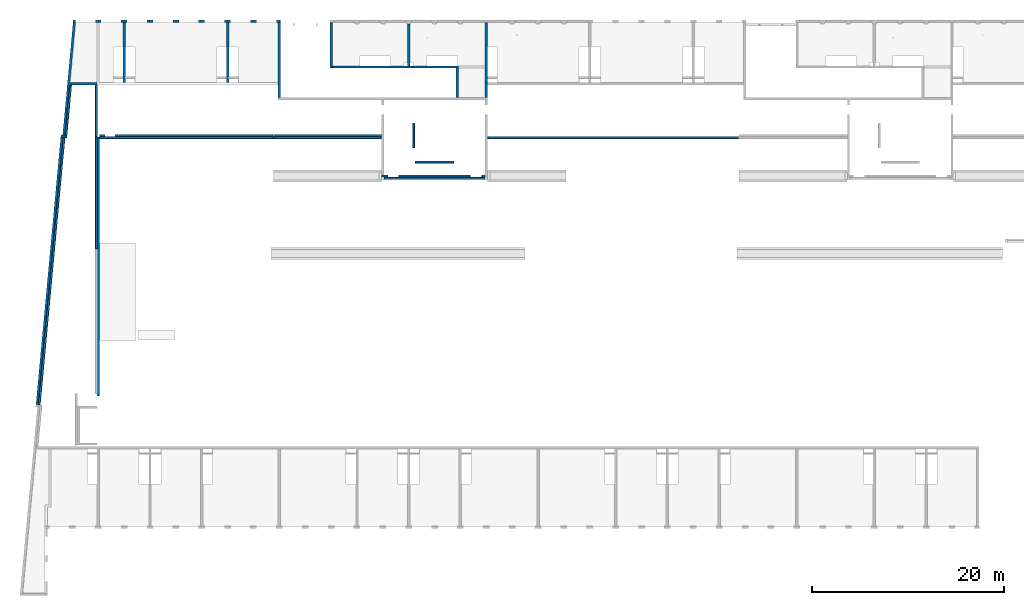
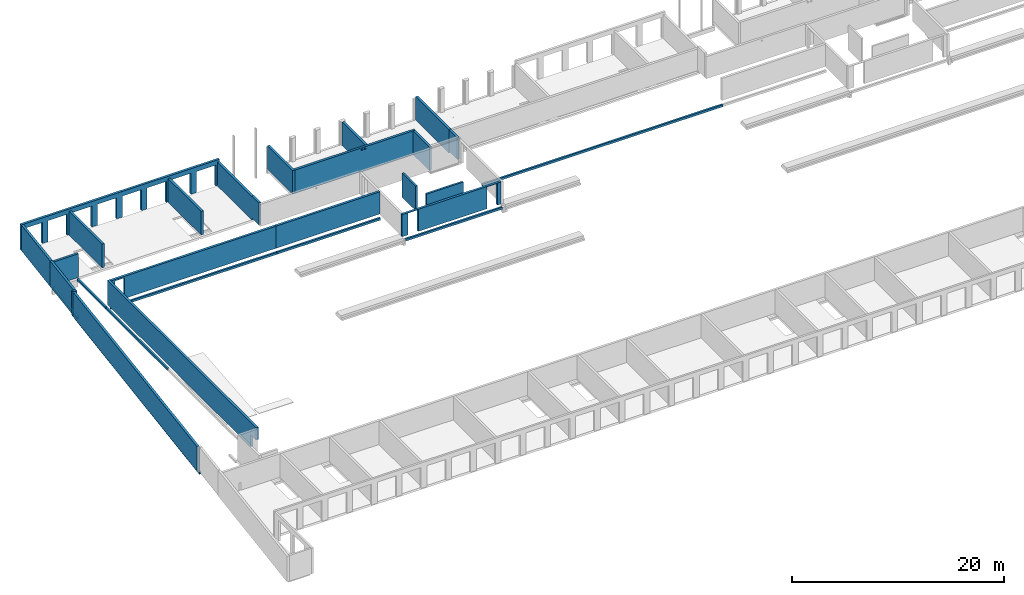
# One storey, part 10 of 18: 29 walls, 20 openings.
"""IFC2X3 building model written with IfcOpenShell, lengths in millimetres."""

from ifc_helpers import new_model, entity, si_unit, converted_unit, derived_unit, direction, frame, frame_2d, origin, origin_2d_with_axis, place, context, subcontext, project, spatial, polyline, rectangle, circle, outline, extrude, clip, bounded_halfspace, faceted_brep, material, layer, layer_set, layer_usage, type_object, element, save


model = new_model("IFC2X3")

# Units and contexts
model_context = context("Model", 3, precision=0.01, world=origin(), true_north=direction((6.12303176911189e-17, 1.0)))
body_context = subcontext(model_context, "Body", "Model", "MODEL_VIEW")
ifc_project = project(units=[si_unit("LENGTHUNIT", "METRE", prefix="MILLI"), si_unit("AREAUNIT", "SQUARE_METRE"), si_unit("VOLUMEUNIT", "CUBIC_METRE"), converted_unit("PLANEANGLEUNIT", "DEGREE", entity("IfcRatioMeasure", 0.0174532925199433), si_unit("PLANEANGLEUNIT", "RADIAN"), dimensions=[0, 0, 0, 0, 0, 0, 0]), si_unit("MASSUNIT", "GRAM", prefix="KILO"), derived_unit("MASSDENSITYUNIT", [(si_unit("MASSUNIT", "GRAM", prefix="KILO"), 1), (si_unit("LENGTHUNIT", "METRE"), -3)]), si_unit("TIMEUNIT", "SECOND"), si_unit("FREQUENCYUNIT", "HERTZ"), si_unit("THERMODYNAMICTEMPERATUREUNIT", "DEGREE_CELSIUS"), derived_unit("THERMALTRANSMITTANCEUNIT", [(si_unit("MASSUNIT", "GRAM", prefix="KILO"), 1), (si_unit("THERMODYNAMICTEMPERATUREUNIT", "KELVIN"), -1), (si_unit("TIMEUNIT", "SECOND"), -3)]), derived_unit("VOLUMETRICFLOWRATEUNIT", [(si_unit("LENGTHUNIT", "METRE"), 3), (si_unit("TIMEUNIT", "SECOND"), -1)]), si_unit("ELECTRICCURRENTUNIT", "AMPERE"), si_unit("ELECTRICVOLTAGEUNIT", "VOLT"), si_unit("POWERUNIT", "WATT"), si_unit("FORCEUNIT", "NEWTON", prefix="KILO"), si_unit("ILLUMINANCEUNIT", "LUX"), si_unit("LUMINOUSFLUXUNIT", "LUMEN"), si_unit("LUMINOUSINTENSITYUNIT", "CANDELA"), derived_unit("USERDEFINED", [(si_unit("MASSUNIT", "GRAM", prefix="KILO"), -1), (si_unit("LENGTHUNIT", "METRE"), -2), (si_unit("TIMEUNIT", "SECOND"), 3), (si_unit("LUMINOUSFLUXUNIT", "LUMEN"), 1)]), derived_unit("LINEARVELOCITYUNIT", [(si_unit("LENGTHUNIT", "METRE"), 1), (si_unit("TIMEUNIT", "SECOND"), -1)]), si_unit("PRESSUREUNIT", "PASCAL"), derived_unit("USERDEFINED", [(si_unit("LENGTHUNIT", "METRE"), -2), (si_unit("MASSUNIT", "GRAM", prefix="KILO"), 1), (si_unit("TIMEUNIT", "SECOND"), -2)])], contexts=[model_context])

# Site, building, storey
site_placement = place(None, origin())
site = spatial("IfcSite", under=ifc_project, at=site_placement, Name="Default", CompositionType="ELEMENT")
building_placement = place(site_placement, origin())
building = spatial("IfcBuilding", under=site, at=building_placement, Name="niet gebruiken", CompositionType="ELEMENT")
storey_placement = place(building_placement, frame((0.0, 0.0, 3690.0)))
storey = spatial("IfcBuildingStorey", under=building, at=storey_placement, Name="01 eerste verdieping", CompositionType="ELEMENT", Elevation=3690.00000000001)

# Walls
ifc_material_1 = material(Name="NLRS_f2_beton ihwg")
ifc_layer_1 = layer(ifc_material_1, 250.0)
ifc_layer_set_1 = layer_set([ifc_layer_1], Name="Basic Wall:NLRS_22.21_WA_beton ihwg d=250_gen")
ifc_layer_usage_1 = layer_usage(ifc_layer_set_1, "AXIS2", "NEGATIVE", 125.0)
wall_type_1 = type_object("IfcWallType", Name="Basic Wall:NLRS_22.21_WA_beton ihwg d=250_gen", PredefinedType="STANDARD", material=ifc_layer_set_1)
wall_1_placement = place(storey_placement, frame((10800.0, 46746.0, -90.0), z_axis=(0.0, 0.0, 1.0), x_axis=(0.0, 1.0, 0.0)))
element("IfcWallStandardCase", 1, at=wall_1_placement, inside=storey, type_object=wall_type_1, material=ifc_layer_usage_1, Name="Basic Wall:NLRS_22.21_WA_beton ihwg d=250_gen", ObjectType="Basic Wall:NLRS_22.21_WA_beton ihwg d=250_gen", context=body_context, shape_type="SweptSolid", body=[
    extrude(rectangle(XDim=6239.99999999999, YDim=249.999999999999, at=frame_2d((3120.0, -2.1316282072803e-14), x_axis=(-1.0, 0.0))), origin(), (0.0, 0.0, 1.0), 2720.00000000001),
])
ifc_layer_usage_2 = layer_usage(ifc_layer_set_1, "AXIS2", "NEGATIVE", 125.0)
wall_2_placement = place(storey_placement, frame((21600.0, 46746.0, -90.0), z_axis=(0.0, 0.0, 1.0), x_axis=(0.0, 1.0, 0.0)))
element("IfcWallStandardCase", 2, at=wall_2_placement, inside=storey, type_object=wall_type_1, material=ifc_layer_usage_2, Name="Basic Wall:NLRS_22.21_WA_beton ihwg d=250_gen", ObjectType="Basic Wall:NLRS_22.21_WA_beton ihwg d=250_gen", context=body_context, shape_type="SweptSolid", body=[
    extrude(rectangle(XDim=6240.00000000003, YDim=250.000000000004, at=frame_2d((3120.00000000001, 1.06581410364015e-12), x_axis=(-1.0, 0.0))), origin(), (0.0, 0.0, 1.0), 2720.00000000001),
])
ifc_layer_usage_3 = layer_usage(ifc_layer_set_1, "AXIS2", "NEGATIVE", 125.0)
wall_3_placement = place(storey_placement, frame((40500.0, 48476.0, -90.0), z_axis=(0.0, 0.0, 1.0), x_axis=(0.0, 1.0, 0.0)))
element("IfcWallStandardCase", 3, at=wall_3_placement, inside=storey, type_object=wall_type_1, material=ifc_layer_usage_3, Name="Basic Wall:NLRS_22.21_WA_beton ihwg d=250_gen", ObjectType="Basic Wall:NLRS_22.21_WA_beton ihwg d=250_gen", context=body_context, shape_type="SweptSolid", body=[
    extrude(rectangle(XDim=4370.00000000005, YDim=249.999999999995, at=frame_2d((2185.00000000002, -5.47117906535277e-13), x_axis=(-1.0, 0.0))), origin(), (0.0, 0.0, 1.0), 2720.00000000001),
])

# Wall, openings
ifc_layer_usage_4 = layer_usage(ifc_layer_set_1, "AXIS2", "NEGATIVE", 125.0)
wall_4_placement = place(storey_placement, frame((26975.0, 45176.0, -90.0), z_axis=(0.0, 0.0, 1.0), x_axis=(0.0, 1.0, 0.0)))
wall_4 = element("IfcWallStandardCase", 4, at=wall_4_placement, inside=storey, type_object=wall_type_1, material=ifc_layer_usage_4, Name="Basic Wall:NLRS_22.21_WA_beton ihwg d=250_gen", ObjectType="Basic Wall:NLRS_22.21_WA_beton ihwg d=250_gen", context=body_context, shape_type="Clipping", body=[
    clip(clip(extrude(rectangle(XDim=7810.0, YDim=250.000000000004, at=frame_2d((3905.0, 2.55795384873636e-13), x_axis=(-1.0, 0.0))), origin(), (0.0, 0.0, 1.0), 2759.99999999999), bounded_halfspace(frame((1320.0, 125.0, 2720.0), z_axis=(0.0, 0.0, -1.0), x_axis=(0.0, -1.0, 0.0)), True, frame((1320.0, 125.0, 2720.0), z_axis=(0.0, 0.0, -1.0), x_axis=(0.0, -1.0, 0.0)), polyline([(0.0, 0.0), (0.0, -6490.0), (250.0, -6490.0), (250.0, 0.0), (0.0, 0.0)]))), bounded_halfspace(frame((0.0, -125.0, 2760.0), z_axis=(0.0, 0.0, -1.0), x_axis=(0.0, -1.0, 0.0)), True, frame((0.0, -125.0, 2760.0), z_axis=(0.0, 0.0, -1.0), x_axis=(0.0, -1.0, 0.0)), polyline([(0.0, 0.0), (-230.0, 0.0), (-250.0, 0.0), (-250.0, -1320.0), (-230.0, -1320.0), (0.0, -1320.0), (0.0, 0.0)]))),
])
opening_1_placement = place(wall_4_placement, origin())
element("IfcOpeningElement", 5, at=opening_1_placement, cuts=wall_4, Name="Basic Wall:NLRS_22.21_WA_beton ihwg d=250_gen", ObjectType="Opening", context=body_context, shape_type="SweptSolid", body=[
    extrude(rectangle(XDim=39.9999999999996, YDim=6489.99999999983, at=frame_2d((0.0, 4.32009983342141e-12), x_axis=(1.0, 0.0))), frame((4565.0, 125.0, 2990.0), z_axis=(0.0, -1.0, 0.0), x_axis=(0.0, 0.0, -1.0)), (0.0, 0.0, 1.0), 250.0),
])
opening_2_placement = place(wall_4_placement, origin())
element("IfcOpeningElement", 6, at=opening_2_placement, cuts=wall_4, Name="Basic Wall:NLRS_22.21_WA_beton ihwg d=250_gen", ObjectType="Opening", context=body_context, shape_type="SweptSolid", body=[
    extrude(rectangle(XDim=209.999999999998, YDim=1320.00000000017, at=frame_2d((-2.77111666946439e-13, 0.0), x_axis=(1.0, 0.0))), frame((660.0, 125.0, 105.0), z_axis=(0.0, -1.0, 0.0), x_axis=(0.0, 0.0, 1.0)), (0.0, 0.0, 1.0), 250.0),
])

# Wall
ifc_layer_usage_5 = layer_usage(ifc_layer_set_1, "AXIS2", "NEGATIVE", 125.0)
wall_5_placement = place(storey_placement, frame((32425.0, 48226.0, -90.0), z_axis=(0.0, 0.0, 1.0), x_axis=(0.0, 1.0, 0.0)))
element("IfcWallStandardCase", 7, at=wall_5_placement, inside=storey, type_object=wall_type_1, material=ifc_layer_usage_5, Name="Basic Wall:NLRS_22.21_WA_beton ihwg d=250_gen", ObjectType="Basic Wall:NLRS_22.21_WA_beton ihwg d=250_gen", context=body_context, shape_type="SweptSolid", body=[
    extrude(rectangle(XDim=4780.0, YDim=250.000000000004, at=frame_2d((2390.0, 1.96820337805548e-12), x_axis=(-1.0, 0.0))), origin(), (0.0, 0.0, 1.0), 2720.00000000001),
])

# Wall, openings
ifc_layer_usage_6 = layer_usage(ifc_layer_set_1, "AXIS2", "NEGATIVE", 125.0)
wall_6_placement = place(storey_placement, frame((45675.0, 48351.0, -90.0), z_axis=(0.0, 0.0, 1.0), x_axis=(-1.0, 0.0, 0.0)))
wall_6 = element("IfcWallStandardCase", 8, at=wall_6_placement, inside=storey, type_object=wall_type_1, material=ifc_layer_usage_6, Name="Basic Wall:NLRS_22.21_WA_beton ihwg d=250_gen", ObjectType="Basic Wall:NLRS_22.21_WA_beton ihwg d=250_gen", context=body_context, shape_type="SweptSolid", body=[
    extrude(rectangle(XDim=13125.0, YDim=249.999999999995, at=frame_2d((6562.5, -1.10134124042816e-12), x_axis=(-1.0, 0.0))), origin(), (0.0, 0.0, 1.0), 2720.00000000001),
])
opening_3_placement = place(wall_6_placement, origin())
element("IfcOpeningElement", 9, at=opening_3_placement, cuts=wall_6, Name="Basic Wall:NLRS_22.21_WA_beton ihwg d=250_gen", ObjectType="Recess", context=body_context, shape_type="SweptSolid", body=[
    extrude(rectangle(XDim=890.0, YDim=119.999999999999, at=origin_2d_with_axis()), frame((11595.0, -125.0, 445.0), z_axis=(0.0, 1.0, 0.0), x_axis=(0.0, 0.0, -1.0)), (0.0, 0.0, 1.0), 40.0000000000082),
])
opening_4_placement = place(wall_6_placement, origin())
element("IfcOpeningElement", 10, at=opening_4_placement, cuts=wall_6, Name="Basic Wall:NLRS_22.21_WA_beton ihwg d=250_gen", ObjectType="Recess", context=body_context, shape_type="SweptSolid", body=[
    extrude(rectangle(XDim=890.0, YDim=119.999999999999, at=frame_2d((-5.40012479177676e-13, 0.0), x_axis=(1.0, 0.0))), frame((11035.0, -125.0, 445.0), z_axis=(0.0, 1.0, 0.0), x_axis=(0.0, 0.0, -1.0)), (0.0, 0.0, 1.0), 40.0000000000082),
])
opening_5_placement = place(wall_6_placement, origin())
element("IfcOpeningElement", 11, at=opening_5_placement, cuts=wall_6, Name="Basic Wall:NLRS_22.21_WA_beton ihwg d=250_gen", ObjectType="Recess", context=body_context, shape_type="SweptSolid", body=[
    extrude(rectangle(XDim=1390.0, YDim=200.000000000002, at=origin_2d_with_axis()), frame((12675.0, -125.0, 695.0), z_axis=(0.0, 1.0, 0.0), x_axis=(0.0, 0.0, -1.0)), (0.0, 0.0, 1.0), 40.0000000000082),
])
opening_6_placement = place(wall_6_placement, origin())
element("IfcOpeningElement", 12, at=opening_6_placement, cuts=wall_6, Name="Basic Wall:NLRS_22.21_WA_beton ihwg d=250_gen", ObjectType="Opening", context=body_context, shape_type="SweptSolid", body=[
    extrude(circle(Radius=100.0, at=origin_2d_with_axis()), frame((5470.0, -125.0, 2490.0), z_axis=(0.0, 1.0, 0.0), x_axis=(-1.0, 0.0, 0.0)), (0.0, 0.0, 1.0), 250.000000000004),
])
opening_7_placement = place(wall_6_placement, origin())
element("IfcOpeningElement", 13, at=opening_7_placement, cuts=wall_6, Name="Basic Wall:NLRS_22.21_WA_beton ihwg d=250_gen", ObjectType="Opening", context=body_context, shape_type="SweptSolid", body=[
    extrude(circle(Radius=100.0, at=origin_2d_with_axis()), frame((5820.0, -125.0, 2490.0), z_axis=(0.0, 1.0, 0.0), x_axis=(-1.0, 0.0, 0.0)), (0.0, 0.0, 1.0), 250.000000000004),
])

# Wall
ifc_layer_usage_7 = layer_usage(ifc_layer_set_1, "AXIS2", "NEGATIVE", 125.0)
wall_7_placement = place(storey_placement, frame((45550.0, 45156.0, -90.0), z_axis=(0.0, 0.0, 1.0), x_axis=(0.0, 1.0, 0.0)))
element("IfcWallStandardCase", 14, at=wall_7_placement, inside=storey, type_object=wall_type_1, material=ifc_layer_usage_7, Name="Basic Wall:NLRS_22.21_WA_beton ihwg d=250_gen", ObjectType="Basic Wall:NLRS_22.21_WA_beton ihwg d=250_gen", context=body_context, shape_type="SweptSolid", body=[
    extrude(rectangle(XDim=3069.99999999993, YDim=249.999999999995, at=frame_2d((1534.99999999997, 2.65742983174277e-12), x_axis=(-1.0, 0.0))), origin(), (0.0, 0.0, 1.0), 2720.0),
])

# Wall, openings
ifc_layer_usage_8 = layer_usage(ifc_layer_set_1, "AXIS2", "NEGATIVE", 125.0)
wall_8_placement = place(storey_placement, frame((48475.0, 36981.0, 30.0), z_axis=(0.0, 0.0, 1.0), x_axis=(-1.0, 0.0, 0.0)))
wall_8 = element("IfcWallStandardCase", 15, at=wall_8_placement, inside=storey, type_object=wall_type_1, material=ifc_layer_usage_8, Name="Basic Wall:NLRS_22.21_WA_beton ihwg d=250_gen", ObjectType="Basic Wall:NLRS_22.21_WA_beton ihwg d=250_gen", context=body_context, shape_type="Clipping", body=[
    clip(extrude(rectangle(XDim=10800.0, YDim=250.000000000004, at=frame_2d((5400.0, -5.47117906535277e-13), x_axis=(-1.0, 0.0))), origin(), (0.0, 0.0, 1.0), 2550.0), bounded_halfspace(frame((0.0, -125.0, 2550.0), z_axis=(0.0, 0.0, -1.0), x_axis=(-1.0, 0.0, 0.0)), True, frame((0.0, -125.0, 2550.0), z_axis=(0.0, 0.0, -1.0), x_axis=(-1.0, 0.0, 0.0)), polyline([(0.0, 0.0), (0.0, 250.0), (-10800.0, 250.0), (-10800.0, 0.0), (-10550.0, 0.0), (-10250.0, 0.0), (-7175.00021676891, 0.0), (-7145.00021676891, 0.0), (-3405.00021676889, 0.0), (-3375.00021676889, 0.0), (0.0, 0.0)]))),
])
opening_8_placement = place(wall_8_placement, origin())
element("IfcOpeningElement", 16, at=opening_8_placement, cuts=wall_8, Name="Basic Wall:NLRS_22.21_WA_beton ihwg d=250_gen", ObjectType="Opening", context=body_context, shape_type="SweptSolid", body=[
    extrude(rectangle(XDim=2495.0, YDim=1130.0, at=frame_2d((-3.41060513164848e-13, 0.0), x_axis=(1.0, 0.0))), frame((965.0, -1649.0, 1247.5), z_axis=(0.0, 1.0, 0.0), x_axis=(0.0, 0.0, 1.0)), (0.0, 0.0, 1.0), 3048.0),
])
opening_9_placement = place(wall_8_placement, origin())
element("IfcOpeningElement", 17, at=opening_9_placement, cuts=wall_8, Name="Basic Wall:NLRS_22.21_WA_beton ihwg d=250_gen", ObjectType="Opening", context=body_context, shape_type="SweptSolid", body=[
    extrude(rectangle(XDim=2495.0, YDim=1130.0, at=frame_2d((-5.6843418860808e-13, 2.1600499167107e-12), x_axis=(1.0, 0.0))), frame((9584.98186661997, -1649.0, 1247.5), z_axis=(0.0, 1.0, 0.0), x_axis=(0.0, 0.0, 1.0)), (0.0, 0.0, 1.0), 3048.0),
])

# Wall
ifc_layer_usage_9 = layer_usage(ifc_layer_set_1, "AXIS2", "NEGATIVE", 125.0)
wall_9_placement = place(storey_placement, frame((37675.0, 41186.0, 120.0), z_axis=(0.0, 0.0, 1.0), x_axis=(-1.0, 0.0, 0.0)))
element("IfcWallStandardCase", 18, at=wall_9_placement, inside=storey, type_object=wall_type_1, material=ifc_layer_usage_9, Name="Basic Wall:NLRS_22.21_WA_beton ihwg d=250_gen", ObjectType="Basic Wall:NLRS_22.21_WA_beton ihwg d=250_gen", context=body_context, shape_type="SweptSolid", body=[
    extrude(rectangle(XDim=11304.9999999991, YDim=249.999999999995, at=frame_2d((5652.49999999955, -1.4210854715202e-12), x_axis=(-1.0, 0.0))), origin(), (0.0, 0.0, 1.0), 2550.0),
])

# Wall, opening
ifc_layer_usage_10 = layer_usage(ifc_layer_set_1, "AXIS2", "NEGATIVE", 125.0)
wall_10_placement = place(storey_placement, frame((26350.0, 41186.0, 120.0), z_axis=(0.0, 0.0, 1.0), x_axis=(-1.0, 0.0, 0.0)))
wall_10 = element("IfcWallStandardCase", 19, at=wall_10_placement, inside=storey, type_object=wall_type_1, material=ifc_layer_usage_10, Name="Basic Wall:NLRS_22.21_WA_beton ihwg d=250_gen", ObjectType="Basic Wall:NLRS_22.21_WA_beton ihwg d=250_gen", context=body_context, shape_type="SweptSolid", body=[
    extrude(rectangle(XDim=18124.9999999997, YDim=249.999999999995, at=frame_2d((9062.49999999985, -1.30739863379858e-12), x_axis=(-1.0, 0.0))), origin(), (0.0, 0.0, 1.0), 2550.0),
])
opening_10_placement = place(wall_10_placement, origin())
element("IfcOpeningElement", 20, at=opening_10_placement, cuts=wall_10, Name="Basic Wall:NLRS_22.21_WA_beton ihwg d=250_gen", ObjectType="Opening", context=body_context, shape_type="SweptSolid", body=[
    extrude(rectangle(XDim=2380.0, YDim=1025.0, at=frame_2d((-1.08002495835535e-12, 5.6843418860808e-13), x_axis=(0.0, 1.0))), frame((17012.5, -1399.0, 1190.0), z_axis=(0.0, 1.0, 0.0), x_axis=(-1.0, 0.0, 0.0)), (0.0, 0.0, 1.0), 3048.0),
])

# Walls
ifc_layer_usage_11 = layer_usage(ifc_layer_set_1, "AXIS2", "NEGATIVE", 125.0)
wall_11_placement = place(storey_placement, frame((48600.0, 46746.0, -90.0), z_axis=(0.0, 0.0, 1.0), x_axis=(0.0, 1.0, 0.0)))
element("IfcWallStandardCase", 21, at=wall_11_placement, inside=storey, type_object=wall_type_1, material=ifc_layer_usage_11, Name="Basic Wall:NLRS_22.21_WA_beton ihwg d=250_gen", ObjectType="Basic Wall:NLRS_22.21_WA_beton ihwg d=250_gen", context=body_context, shape_type="Clipping", body=[
    clip(extrude(rectangle(XDim=6259.99999999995, YDim=249.999999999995, at=frame_2d((3129.99999999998, 1.08713038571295e-12), x_axis=(-1.0, 0.0))), origin(), (0.0, 0.0, 1.0), 2719.99999999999), bounded_halfspace(frame((3680.0, -125.0, 2720.0), z_axis=(0.0, 0.0, -1.0), x_axis=(-1.0, 0.0, 0.0)), True, frame((3680.0, -125.0, 2720.0), z_axis=(0.0, 0.0, -1.0), x_axis=(-1.0, 0.0, 0.0)), polyline([(0.0, 0.0), (3680.0, 0.0), (3680.0, 250.0), (-2580.0, 250.0), (-2580.0, 230.0), (-2580.0, 125.0), (-2580.0, 20.0), (-2580.0, 0.0), (0.0, 0.0)]))),
])
ifc_layer_usage_12 = layer_usage(ifc_layer_set_1, "AXIS2", "NEGATIVE", 125.0)
wall_12_placement = place(storey_placement, frame((48600.0, 45156.0, 120.0), z_axis=(0.0, 0.0, 1.0), x_axis=(0.0, 1.0, 0.0)))
element("IfcWallStandardCase", 22, at=wall_12_placement, inside=storey, type_object=wall_type_1, material=ifc_layer_usage_12, Name="Basic Wall:NLRS_22.21_WA_beton ihwg d=250_gen", ObjectType="Basic Wall:NLRS_22.21_WA_beton ihwg d=250_gen", context=body_context, shape_type="Clipping", body=[
    clip(clip(extrude(rectangle(XDim=1590.00000000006, YDim=249.999999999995, at=frame_2d((795.000000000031, 1.37845290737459e-12), x_axis=(-1.0, 0.0))), origin(), (0.0, 0.0, 1.0), 2509.99999999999), bounded_halfspace(frame((1340.0, -125.0, 2510.0), z_axis=(0.0, 0.0, -1.0), x_axis=(-1.0, 0.0, 0.0)), True, frame((1340.0, -125.0, 2510.0), z_axis=(0.0, 0.0, -1.0), x_axis=(-1.0, 0.0, 0.0)), polyline([(0.0, 0.0), (1340.0, 0.0), (1340.0, 230.0), (1340.0, 250.0), (-250.0, 250.0), (-250.0, 0.0), (0.0, 0.0)]))), bounded_halfspace(frame((1590.0, -125.0, 0.0), z_axis=(0.0, 0.0, 1.0), x_axis=(0.0, -1.0, 0.0)), True, frame((1590.0, -125.0, 0.0), z_axis=(0.0, 0.0, 1.0), x_axis=(0.0, -1.0, 0.0)), polyline([(0.0, 0.0), (-250.0, 0.0), (-250.0, -1590.0), (0.0, -1590.0), (0.0, -690.0), (0.0, 0.0)]))),
])

# Wall, opening
ifc_layer_usage_13 = layer_usage(ifc_layer_set_1, "AXIS2", "NEGATIVE", 125.0)
wall_13_placement = place(storey_placement, frame((7975.0, 46621.0, -90.0), z_axis=(0.0, 0.0, 1.0), x_axis=(-1.0, 0.0, 0.0)))
wall_13 = element("IfcWallStandardCase", 23, at=wall_13_placement, inside=storey, type_object=wall_type_1, material=ifc_layer_usage_13, Name="Basic Wall:NLRS_22.21_WA_beton ihwg d=250_gen", ObjectType="Basic Wall:NLRS_22.21_WA_beton ihwg d=250_gen", context=body_context, shape_type="SweptSolid", body=[
    extrude(rectangle(XDim=2829.65263965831, YDim=249.999999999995, at=frame_2d((1414.82631982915, -1.4281908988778e-12), x_axis=(-1.0, 0.0))), origin(), (0.0, 0.0, 1.0), 2719.99999999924),
])
opening_11_placement = place(wall_13_placement, frame((3088.92231782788, 225.0, -1100.0)))
element("IfcOpeningElement", 24, at=opening_11_placement, cuts=wall_13, Name="Basic Wall:NLRS_22.21_WA_beton ihwg d=250_gen", ObjectType="Opening", context=body_context, shape_type="Brep", body=[
    faceted_brep([(-282.44387359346, -350.0, 4300.0), (0.0, -350.0, 4300.0), (0.0, 0.0, 4300.0), (-250.0, 0.0, 4300.0), (-282.44387359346, -350.0, 0.0), (-250.0, 0.0, 0.0), (0.0, 0.0, 0.0), (0.0, -350.0, 0.0)], [[[0, 1, 2, 3]], [[4, 5, 6, 7]], [[1, 0, 4, 7]], [[2, 1, 7, 6]], [[3, 2, 6, 5]], [[0, 3, 5, 4]]]),
])

# Wall, openings
ifc_material_2 = material(Name="NLRS_f2_beton prefab")
ifc_layer_2 = layer(ifc_material_2, 250.0)
ifc_layer_set_2 = layer_set([ifc_layer_2], Name="Basic Wall:NLRS_21.21_WA_beton prefab d=250_gen")
ifc_layer_usage_14 = layer_usage(ifc_layer_set_2, "AXIS2", "NEGATIVE", 125.0)
wall_type_2 = type_object("IfcWallType", Name="Basic Wall:NLRS_21.21_WA_beton prefab d=250_gen", PredefinedType="STANDARD", material=ifc_layer_set_2)
wall_14_placement = place(storey_placement, frame((5489.22191752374, 53131.0, -70.0)))
wall_14 = element("IfcWallStandardCase", 25, at=wall_14_placement, inside=storey, type_object=wall_type_2, material=ifc_layer_usage_14, Name="Basic Wall:NLRS_21.21_WA_beton prefab d=250_gen", ObjectType="Basic Wall:NLRS_21.21_WA_beton prefab d=250_gen", context=body_context, shape_type="SweptSolid", body=[
    extrude(rectangle(XDim=21610.7780824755, YDim=249.999999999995, at=frame_2d((10805.3890412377, 3.97903932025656e-13), x_axis=(-1.0, 0.0))), origin(), (0.0, 0.0, 1.0), 2950.00000000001),
])
opening_12_placement = place(wall_14_placement, origin())
element("IfcOpeningElement", 26, at=opening_12_placement, cuts=wall_14, Name="Basic Wall:NLRS_21.21_WA_beton prefab d=250_gen", ObjectType="Opening", context=body_context, shape_type="SweptSolid", body=[
    extrude(rectangle(XDim=2440.0, YDim=2080.0, at=origin_2d_with_axis()), frame((1260.77808247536, -1649.0, 1200.0), z_axis=(0.0, 1.0, 0.0), x_axis=(0.0, 0.0, 1.0)), (0.0, 0.0, 1.0), 3048.0),
])
opening_13_placement = place(wall_14_placement, origin())
element("IfcOpeningElement", 27, at=opening_13_placement, cuts=wall_14, Name="Basic Wall:NLRS_21.21_WA_beton prefab d=250_gen", ObjectType="Opening", context=body_context, shape_type="SweptSolid", body=[
    extrude(rectangle(XDim=2440.0, YDim=2080.0, at=frame_2d((0.0, -2.1600499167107e-12), x_axis=(1.0, 0.0))), frame((14760.7780824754, -1649.0, 1200.0), z_axis=(0.0, 1.0, 0.0), x_axis=(0.0, 0.0, 1.0)), (0.0, 0.0, 1.0), 3048.0),
])
opening_14_placement = place(wall_14_placement, origin())
element("IfcOpeningElement", 28, at=opening_14_placement, cuts=wall_14, Name="Basic Wall:NLRS_21.21_WA_beton prefab d=250_gen", ObjectType="Opening", context=body_context, shape_type="SweptSolid", body=[
    extrude(rectangle(XDim=2440.0, YDim=2080.0, at=origin_2d_with_axis()), frame((12060.7780824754, -1649.0, 1200.0), z_axis=(0.0, 1.0, 0.0), x_axis=(0.0, 0.0, 1.0)), (0.0, 0.0, 1.0), 3048.0),
])
opening_15_placement = place(wall_14_placement, origin())
element("IfcOpeningElement", 29, at=opening_15_placement, cuts=wall_14, Name="Basic Wall:NLRS_21.21_WA_beton prefab d=250_gen", ObjectType="Opening", context=body_context, shape_type="SweptSolid", body=[
    extrude(rectangle(XDim=2440.0, YDim=2080.0, at=origin_2d_with_axis()), frame((9360.77808247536, -1649.0, 1200.0), z_axis=(0.0, 1.0, 0.0), x_axis=(0.0, 0.0, 1.0)), (0.0, 0.0, 1.0), 3048.0),
])
opening_16_placement = place(wall_14_placement, origin())
element("IfcOpeningElement", 30, at=opening_16_placement, cuts=wall_14, Name="Basic Wall:NLRS_21.21_WA_beton prefab d=250_gen", ObjectType="Opening", context=body_context, shape_type="SweptSolid", body=[
    extrude(rectangle(XDim=2440.0, YDim=2080.0, at=origin_2d_with_axis()), frame((6660.77808247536, -1649.0, 1200.0), z_axis=(0.0, 1.0, 0.0), x_axis=(0.0, 0.0, 1.0)), (0.0, 0.0, 1.0), 3048.0),
])
opening_17_placement = place(wall_14_placement, origin())
element("IfcOpeningElement", 31, at=opening_17_placement, cuts=wall_14, Name="Basic Wall:NLRS_21.21_WA_beton prefab d=250_gen", ObjectType="Opening", context=body_context, shape_type="SweptSolid", body=[
    extrude(rectangle(XDim=2440.0, YDim=2080.0, at=origin_2d_with_axis()), frame((3960.77808247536, -1649.0, 1200.0), z_axis=(0.0, 1.0, 0.0), x_axis=(0.0, 0.0, 1.0)), (0.0, 0.0, 1.0), 3048.0),
])
opening_18_placement = place(wall_14_placement, origin())
element("IfcOpeningElement", 32, at=opening_18_placement, cuts=wall_14, Name="Basic Wall:NLRS_21.21_WA_beton prefab d=250_gen", ObjectType="Opening", context=body_context, shape_type="SweptSolid", body=[
    extrude(rectangle(XDim=2440.0, YDim=2080.0, at=frame_2d((0.0, -2.1600499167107e-12), x_axis=(1.0, 0.0))), frame((17460.7780824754, -1649.0, 1200.0), z_axis=(0.0, 1.0, 0.0), x_axis=(0.0, 0.0, 1.0)), (0.0, 0.0, 1.0), 3048.0),
])
opening_19_placement = place(wall_14_placement, origin())
element("IfcOpeningElement", 33, at=opening_19_placement, cuts=wall_14, Name="Basic Wall:NLRS_21.21_WA_beton prefab d=250_gen", ObjectType="Opening", context=body_context, shape_type="SweptSolid", body=[
    extrude(rectangle(XDim=2440.0, YDim=2080.0, at=frame_2d((0.0, -2.1600499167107e-12), x_axis=(1.0, 0.0))), frame((20160.7780824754, -1649.0, 1200.0), z_axis=(0.0, 1.0, 0.0), x_axis=(0.0, 0.0, 1.0)), (0.0, 0.0, 1.0), 3048.0),
])

# Walls
ifc_layer_usage_15 = layer_usage(ifc_layer_set_2, "AXIS2", "NEGATIVE", 125.0)
wall_15_placement = place(storey_placement, frame((4311.35704345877, 41020.3198839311, 50.0), z_axis=(0.0, 0.0, 1.0), x_axis=(-0.0922987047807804, -0.995731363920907, 0.0)))
element("IfcWallStandardCase", 34, at=wall_15_placement, inside=storey, type_object=wall_type_2, material=ifc_layer_usage_15, Name="Basic Wall:NLRS_21.21_WA_beton prefab d=250_gen", ObjectType="Basic Wall:NLRS_21.21_WA_beton prefab d=250_gen", context=body_context, shape_type="SweptSolid", body=[
    extrude(rectangle(XDim=28029.9603140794, YDim=250.000000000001, at=frame_2d((14014.9801570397, -2.62900812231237e-13), x_axis=(-1.0, 0.0))), origin(), (0.0, 0.0, 1.0), 2829.99999999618),
])
ifc_layer_usage_16 = layer_usage(ifc_layer_set_2, "AXIS2", "NEGATIVE", 125.0)
wall_16_placement = place(storey_placement, frame((4999.76909310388, 46496.4629439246, -70.0), z_axis=(0.0, 0.0, 1.0), x_axis=(-0.0922993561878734, -0.995731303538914, 0.0)))
element("IfcWallStandardCase", 35, at=wall_16_placement, inside=storey, type_object=wall_type_2, material=ifc_layer_usage_16, Name="Basic Wall:NLRS_21.21_WA_beton prefab d=250_gen", ObjectType="Basic Wall:NLRS_21.21_WA_beton prefab d=250_gen", context=body_context, shape_type="SweptSolid", body=[
    extrude(rectangle(XDim=5266.28052932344, YDim=250.0, at=frame_2d((2633.14026466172, -1.20792265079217e-13), x_axis=(-1.0, 0.0))), origin(), (0.0, 0.0, 1.0), 2950.00000000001),
])
ifc_layer_usage_17 = layer_usage(ifc_layer_set_2, "AXIS2", "NEGATIVE", 125.0)
wall_17_placement = place(storey_placement, frame((5601.31701080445, 52986.0, -70.0), z_axis=(0.0, 0.0, 1.0), x_axis=(-0.0922993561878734, -0.995731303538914, 0.0)))
element("IfcWallStandardCase", 36, at=wall_17_placement, inside=storey, type_object=wall_type_2, material=ifc_layer_usage_17, Name="Basic Wall:NLRS_21.21_WA_beton prefab d=250_gen", ObjectType="Basic Wall:NLRS_21.21_WA_beton prefab d=250_gen", context=body_context, shape_type="SweptSolid", body=[
    extrude(rectangle(XDim=6517.35767772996, YDim=250.000000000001, at=frame_2d((3258.67883886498, 1.13686837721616e-13), x_axis=(-1.0, 0.0))), origin(), (0.0, 0.0, 1.0), 2950.00000000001),
])
ifc_layer_usage_18 = layer_usage(ifc_layer_set_2, "AXIS2", "NEGATIVE", 125.0)
wall_18_placement = place(storey_placement, frame((4198.40801202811, 41156.3070780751, 50.0), z_axis=(0.0, 0.0, 1.0), x_axis=(0.995731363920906, -0.0922987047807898, 0.0)))
element("IfcWallStandardCase", 37, at=wall_18_placement, inside=storey, type_object=wall_type_2, material=ifc_layer_usage_18, Name="Basic Wall:NLRS_21.21_WA_beton prefab d=250_gen", ObjectType="Basic Wall:NLRS_21.21_WA_beton prefab d=250_gen", context=body_context, shape_type="SweptSolid", body=[
    extrude(rectangle(XDim=430.000000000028, YDim=249.999999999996, at=frame_2d((215.000000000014, -3.32534000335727e-12), x_axis=(-1.0, 0.0))), origin(), (0.0, 0.0, 1.0), 2829.99999999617),
])

# Wall, opening
ifc_layer_3 = layer(ifc_material_2, 250.0)
ifc_layer_set_3 = layer_set([ifc_layer_3], Name="Basic Wall:NLRS_22.21_WA_beton prefab d=250_gen")
ifc_layer_usage_19 = layer_usage(ifc_layer_set_3, "AXIS2", "NEGATIVE", 125.0)
wall_type_3 = type_object("IfcWallType", Name="Basic Wall:NLRS_22.21_WA_beton prefab d=250_gen", PredefinedType="STANDARD", material=ifc_layer_set_3)
wall_19_placement = place(storey_placement, frame((8100.0, 12986.0, 70.0), z_axis=(0.0, 0.0, 1.0), x_axis=(0.0, 1.0, 0.0)))
wall_19 = element("IfcWallStandardCase", 38, at=wall_19_placement, inside=storey, type_object=wall_type_3, material=ifc_layer_usage_19, Name="Basic Wall:NLRS_22.21_WA_beton prefab d=250_gen", ObjectType="Basic Wall:NLRS_22.21_WA_beton prefab d=250_gen", context=body_context, shape_type="SweptSolid", body=[
    extrude(rectangle(XDim=28075.0000000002, YDim=249.999999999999, at=frame_2d((14037.5000000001, -8.5265128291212e-14), x_axis=(-1.0, 0.0))), origin(), (0.0, 0.0, 1.0), 2809.99999999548),
])
opening_20_placement = place(wall_19_placement, origin())
element("IfcOpeningElement", 39, at=opening_20_placement, cuts=wall_19, Name="Basic Wall:NLRS_22.21_WA_beton prefab d=250_gen", ObjectType="Opening", context=body_context, shape_type="SweptSolid", body=[
    extrude(rectangle(XDim=1390.00000000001, YDim=1025.00000000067, at=frame_2d((-7.95807864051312e-13, -2.1600499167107e-12), x_axis=(1.0, 0.0))), frame((512.500000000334, 125.0, 695.0), z_axis=(0.0, -1.0, 0.0), x_axis=(0.0, 0.0, 1.0)), (0.0, 0.0, 1.0), 250.0),
])

# Walls
wall_type_4 = type_object("IfcWallType", Name="NLRS_21.21_SF_WPB_oplegnok prefabbeton_gen:200x250", PredefinedType="NOTDEFINED", material=ifc_material_2)
wall_20_placement = place(storey_placement, frame((7775.0, 41061.0, -410.0), z_axis=(0.0, 0.0, 1.0), x_axis=(0.0, 1.0, 0.0)))
element("IfcWall", 40, at=wall_20_placement, inside=storey, type_object=wall_type_4, material=ifc_material_2, Name="NLRS_21.21_SF_WPB_oplegnok prefabbeton_gen:200x250", ObjectType="NLRS_21.21_SF_WPB_oplegnok prefabbeton_gen:200x250", context=body_context, shape_type="SweptSolid", body=[
    extrude(rectangle(XDim=5415.00000000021, YDim=200.0, at=origin_2d_with_axis()), frame((2707.5000000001, -100.0, 0.0), z_axis=(0.0, 0.0, 1.0), x_axis=(-1.0, 0.0, 0.0)), (0.0, 0.0, 1.0), 250.000000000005),
])
wall_21_placement = place(storey_placement, frame((1848.69443190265, 13080.0121906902, -410.0), z_axis=(0.0, 0.0, 1.0), x_axis=(0.0, 1.0, 0.0)))
element("IfcWall", 41, at=wall_21_placement, inside=storey, type_object=wall_type_4, material=ifc_material_2, Name="NLRS_21.21_SF_WPB_oplegnok prefabbeton_gen:200x250", ObjectType="NLRS_21.21_SF_WPB_oplegnok prefabbeton_gen:200x250", context=body_context, shape_type="SweptSolid", body=[
    extrude(outline(polyline([(-18685.4955447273, -126.666666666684), (9340.99777236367, -126.666666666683), (9340.99777236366, 53.3333333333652), (9344.49777236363, 53.3333333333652), (9344.49777236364, 73.3333333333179), (-18685.4955447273, 73.3333333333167), (-18685.4955447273, -126.666666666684)])), frame((9311.37808371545, -988.611013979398, 0.0), z_axis=(0.0, 0.0, 1.0), x_axis=(-0.995731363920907, 0.0922987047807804, 0.0)), (0.0, 0.0, 1.0), 250.000000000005),
])
wall_22_placement = place(storey_placement, frame((4615.08958093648, 40973.7655070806, -410.0), z_axis=(0.0, 0.0, 1.0), x_axis=(0.0, 1.0, 0.0)))
element("IfcWall", 42, at=wall_22_placement, inside=storey, type_object=wall_type_4, material=ifc_material_2, Name="NLRS_21.21_SF_WPB_oplegnok prefabbeton_gen:200x250", ObjectType="NLRS_21.21_SF_WPB_oplegnok prefabbeton_gen:200x250", context=body_context, shape_type="SweptSolid", body=[
    extrude(rectangle(XDim=5496.24738180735, YDim=200.000000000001, at=origin_2d_with_axis()), frame((2745.62282144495, -353.221393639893, 0.0), z_axis=(0.0, 0.0, 1.0), x_axis=(-0.995731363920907, 0.0922987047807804, 0.0)), (0.0, 0.0, 1.0), 250.000000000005),
])
wall_23_placement = place(storey_placement, frame((7775.0, 29406.0, -410.0), z_axis=(0.0, 0.0, 1.0), x_axis=(0.0, 1.0, 0.0)))
element("IfcWall", 43, at=wall_23_placement, inside=storey, type_object=wall_type_4, material=ifc_material_2, Name="NLRS_21.21_SF_WPB_oplegnok prefabbeton_gen:200x250", ObjectType="NLRS_21.21_SF_WPB_oplegnok prefabbeton_gen:200x250", context=body_context, shape_type="SweptSolid", body=[
    extrude(rectangle(XDim=11654.9999999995, YDim=200.0, at=frame_2d((0.0, 5.47117906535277e-13), x_axis=(1.0, 0.0))), frame((5827.49999999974, -100.0, 0.0), z_axis=(0.0, 0.0, 1.0), x_axis=(-1.0, 0.0, 0.0)), (0.0, 0.0, 1.0), 250.000000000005),
])
ifc_layer_4 = layer(ifc_material_2, 200.0)
ifc_layer_set_4 = layer_set([ifc_layer_4], Name="Basic Wall:NLRS_22.21_WA_beton prefab d=200_gen")
ifc_layer_usage_20 = layer_usage(ifc_layer_set_4, "AXIS2", "NEGATIVE", 100.0)
wall_type_5 = type_object("IfcWallType", Name="Basic Wall:NLRS_22.21_WA_beton prefab d=200_gen", PredefinedType="STANDARD", material=ifc_layer_set_4)
wall_24_placement = place(storey_placement, frame((45200.0, 38426.0, 50.0), z_axis=(0.0, 0.0, 1.0), x_axis=(-1.0, 0.0, 0.0)))
element("IfcWallStandardCase", 44, at=wall_24_placement, inside=storey, type_object=wall_type_5, material=ifc_layer_usage_20, Name="Basic Wall:NLRS_22.21_WA_beton prefab d=200_gen", ObjectType="Basic Wall:NLRS_22.21_WA_beton prefab d=200_gen", context=body_context, shape_type="SweptSolid", body=[
    extrude(rectangle(XDim=3999.99999999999, YDim=199.999999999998, at=frame_2d((2000.0, 0.0), x_axis=(-1.0, 0.0))), origin(), (0.0, 0.0, 1.0), 2780.0),
])
ifc_layer_usage_21 = layer_usage(ifc_layer_set_4, "AXIS2", "NEGATIVE", 100.0)
wall_25_placement = place(storey_placement, frame((41024.9998491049, 39946.0, 50.0), z_axis=(0.0, 0.0, 1.0), x_axis=(0.0, 1.0, 0.0)))
element("IfcWallStandardCase", 45, at=wall_25_placement, inside=storey, type_object=wall_type_5, material=ifc_layer_usage_21, Name="Basic Wall:NLRS_22.21_WA_beton prefab d=200_gen", ObjectType="Basic Wall:NLRS_22.21_WA_beton prefab d=200_gen", context=body_context, shape_type="SweptSolid", body=[
    extrude(rectangle(XDim=2549.99999999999, YDim=200.000000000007, at=frame_2d((1275.0, 0.0), x_axis=(-1.0, 0.0))), origin(), (0.0, 0.0, 1.0), 2780.00000000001),
])
wall_type_6 = type_object("IfcWallType", Name="NLRS_21.21_SF_WPB_oplegnok ihwg beton_gen:200x250", PredefinedType="NOTDEFINED", material=ifc_material_1)
wall_26_placement = place(storey_placement, frame((37925.0, 36656.0, -460.0)))
element("IfcWall", 46, at=wall_26_placement, inside=storey, type_object=wall_type_6, material=ifc_material_1, Name="NLRS_21.21_SF_WPB_oplegnok ihwg beton_gen:200x250", ObjectType="NLRS_21.21_SF_WPB_oplegnok ihwg beton_gen:200x250", context=body_context, shape_type="SweptSolid", body=[
    extrude(rectangle(XDim=10550.0, YDim=200.000000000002, at=origin_2d_with_axis()), frame((5275.0, 100.0, 0.0)), (0.0, 0.0, 1.0), 250.000000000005),
])
wall_27_placement = place(storey_placement, frame((48745.0, 40861.0, -460.0)))
element("IfcWall", 47, at=wall_27_placement, inside=storey, type_object=wall_type_6, material=ifc_material_1, Name="NLRS_21.21_SF_WPB_oplegnok ihwg beton_gen:200x250", ObjectType="NLRS_21.21_SF_WPB_oplegnok ihwg beton_gen:200x250", context=body_context, shape_type="SweptSolid", body=[
    extrude(rectangle(XDim=26204.9999999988, YDim=199.999999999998, at=frame_2d((-4.54747350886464e-12, -4.33431068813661e-12), x_axis=(1.0, 0.0))), frame((13102.4999999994, 100.0, 0.0)), (0.0, 0.0, 1.0), 250.000000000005),
])
wall_28_placement = place(storey_placement, frame((26370.0, 40861.0, -460.0)))
element("IfcWall", 48, at=wall_28_placement, inside=storey, type_object=wall_type_6, material=ifc_material_1, Name="NLRS_21.21_SF_WPB_oplegnok ihwg beton_gen:200x250", ObjectType="NLRS_21.21_SF_WPB_oplegnok ihwg beton_gen:200x250", context=body_context, shape_type="SweptSolid", body=[
    extrude(rectangle(XDim=11285.0, YDim=199.999999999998, at=frame_2d((-2.27373675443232e-12, -4.33431068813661e-12), x_axis=(1.0, 0.0))), frame((5642.50000000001, 100.0, 0.0)), (0.0, 0.0, 1.0), 250.000000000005),
])
wall_29_placement = place(storey_placement, frame((8245.0, 40861.0, -460.0)))
element("IfcWall", 49, at=wall_29_placement, inside=storey, type_object=wall_type_6, material=ifc_material_1, Name="NLRS_21.21_SF_WPB_oplegnok ihwg beton_gen:200x250", ObjectType="NLRS_21.21_SF_WPB_oplegnok ihwg beton_gen:200x250", context=body_context, shape_type="SweptSolid", body=[
    extrude(rectangle(XDim=18104.9999999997, YDim=199.999999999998, at=frame_2d((9.09494701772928e-13, 0.0), x_axis=(1.0, 0.0))), frame((9052.49999999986, 100.0, 0.0)), (0.0, 0.0, 1.0), 250.000000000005),
])

save(model, "model.ifc")
